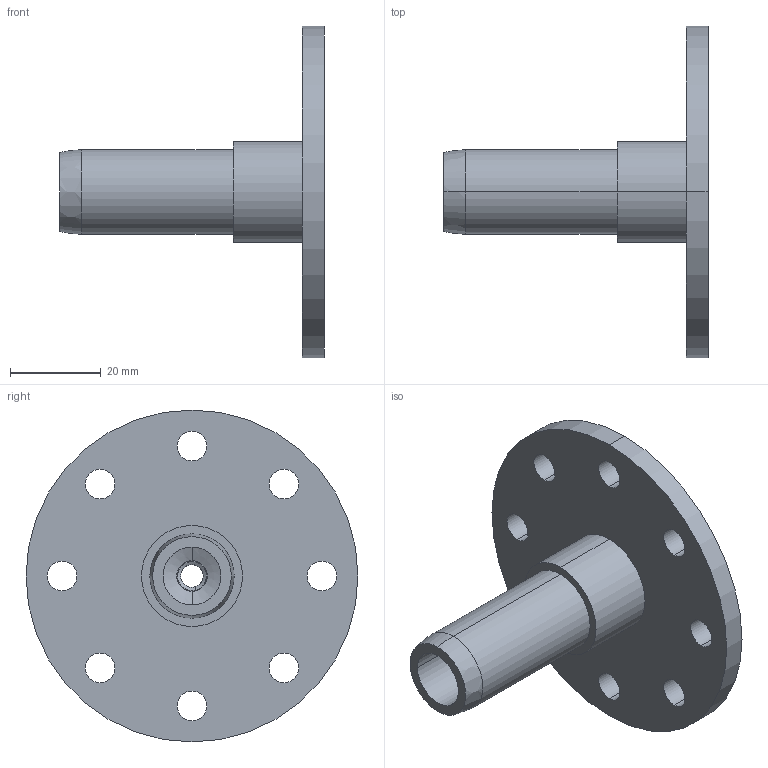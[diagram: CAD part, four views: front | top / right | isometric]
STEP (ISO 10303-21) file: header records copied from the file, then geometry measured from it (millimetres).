
FILE_DESCRIPTION (( 'STEP AP203' ), '1' );
FILE_NAME ('FDPCK-MC.75-HEX-END-KIT.step', '2019-09-11T18:31:38', ( 'ydmin' ), ( '' ), 'SwSTEP 2.0', 'SolidWorks 2017', '' );
FILE_SCHEMA (( 'CONFIG_CONTROL_DESIGN' ));
Length unit declared in the file: inch
Products named in the file (1): FDPCK-MC.75-HEX-END-KIT
Bounding box: 58.1 x 73.03 x 73.03 mm (x, y, z)
Volume: 29014.1 mm3; surface area: 15989.5 mm2
Topology: 3 solids, 3 shells, 70 faces, 182 edges, 120 vertices
Faces by surface type: cylinder 38, plane 20, bspline 10, cone 2
Entity records: 3801 total; most frequent: CARTESIAN_POINT 1947, DIRECTION 378, ORIENTED_EDGE 364, EDGE_CURVE 182, AXIS2_PLACEMENT_3D 143, VERTEX_POINT 120, LINE 92, EDGE_LOOP 92
